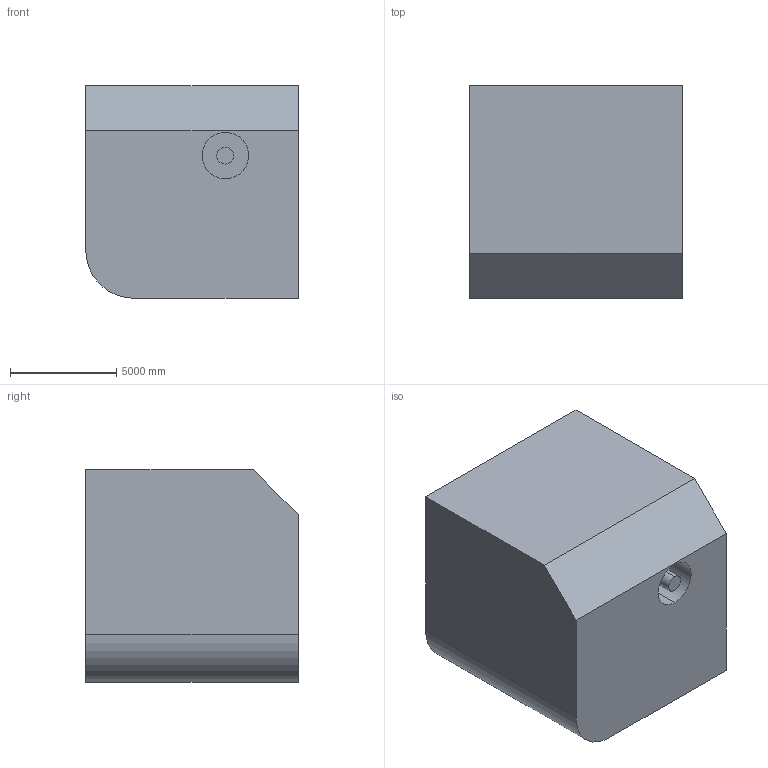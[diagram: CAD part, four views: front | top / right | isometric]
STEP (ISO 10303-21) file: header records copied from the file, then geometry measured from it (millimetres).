
FILE_DESCRIPTION (( 'STEP AP203' ), '1' );
FILE_NAME ('1248.STEP', '2022-08-18T13:22:57', ( 'user' ), ( '' ), 'SwSTEP 2.0', 'SolidWorks 2021', '' );
FILE_SCHEMA (( 'CONFIG_CONTROL_DESIGN' ));
Length unit declared in the file: centimetre
Products named in the file (1): 1248
Bounding box: 10000 x 10000 x 10000 mm (x, y, z)
Volume: 954278523795.4 mm3; surface area: 607375178.6 mm2
Topology: 1 solids, 1 shells, 14 faces, 30 edges, 20 vertices
Faces by surface type: plane 9, cylinder 5
Entity records: 461 total; most frequent: DIRECTION 70, CARTESIAN_POINT 65, ORIENTED_EDGE 60, EDGE_CURVE 30, AXIS2_PLACEMENT_3D 25, LINE 20, VECTOR 20, VERTEX_POINT 20
